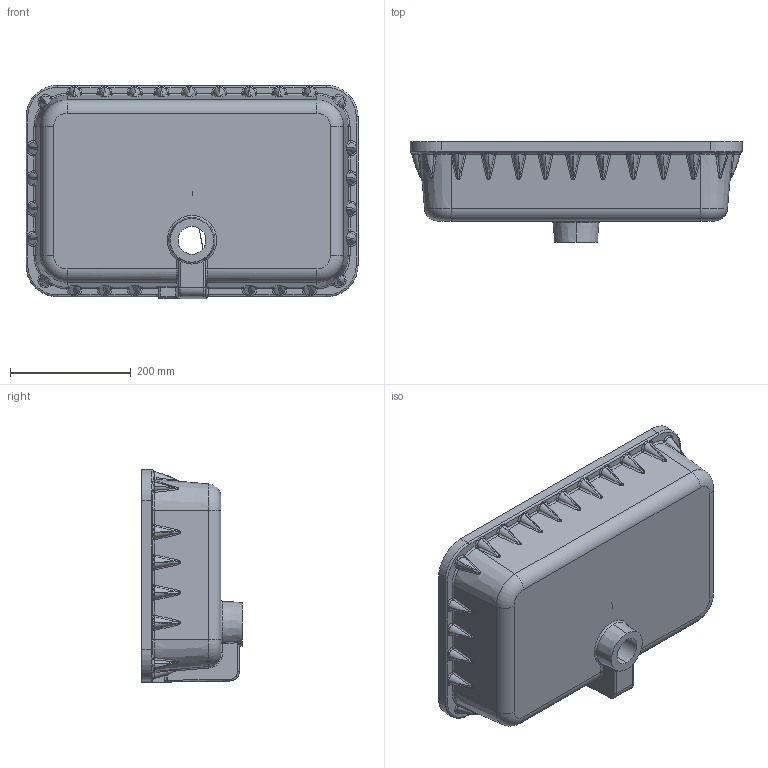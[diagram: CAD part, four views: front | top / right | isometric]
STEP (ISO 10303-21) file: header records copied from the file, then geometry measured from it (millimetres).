
FILE_DESCRIPTION (( 'STEP AP203' ), '1' );
FILE_NAME ('tp730-18.05.2018.STEP', '2022-04-20T11:15:15', ( '' ), ( '' ), 'SwSTEP 2.0', 'SolidWorks 2021', '' );
FILE_SCHEMA (( 'CONFIG_CONTROL_DESIGN' ));
Length unit declared in the file: millimetre
Products named in the file (1): tp730-18.05.2018
Bounding box: 550 x 166.1 x 352.98 mm (x, y, z)
Volume: 5265410.1 mm3; surface area: 730525.2 mm2
Topology: 2 solids, 6 shells, 664 faces, 1586 edges, 850 vertices
Faces by surface type: bspline 279, cylinder 180, plane 123, sphere 58, torus 18, cone 6
Entity records: 32755 total; most frequent: CARTESIAN_POINT 20293, ORIENTED_EDGE 3004, DIRECTION 2155, EDGE_CURVE 1502, AXIS2_PLACEMENT_3D 877, VERTEX_POINT 850, EDGE_LOOP 668, ADVANCED_FACE 664
